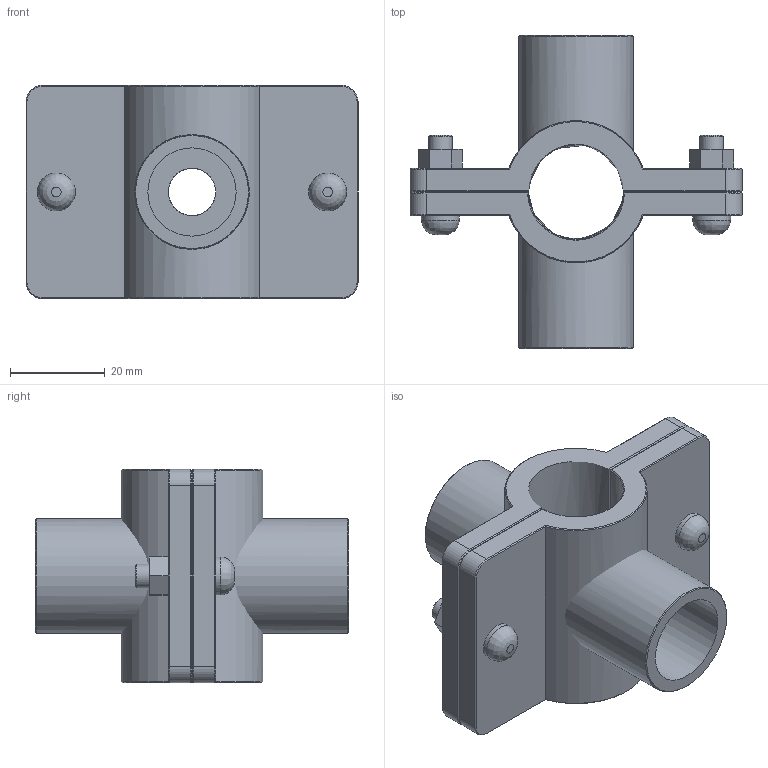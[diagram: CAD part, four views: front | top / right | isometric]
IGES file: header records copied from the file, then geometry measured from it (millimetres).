
Global section: file name: 161760020005_161860020005.ipt; native system: Autodesk Inventor 2015; preprocessor: unknown; author: KIM; date: 20170618.093635; units: millimetre
Bounding box: 70 x 66 x 45 mm (x, y, z)
Volume: 47678.5 mm3; surface area: 25297.6 mm2
Topology: 2 solids, 2 shells, 121 faces, 287 edges, 180 vertices
Faces by surface type: plane 66, cone 24, cylinder 17, revolution 14
Full cylindrical faces by diameter (mm): 5 x2, 8 x4, 24.22 x1
